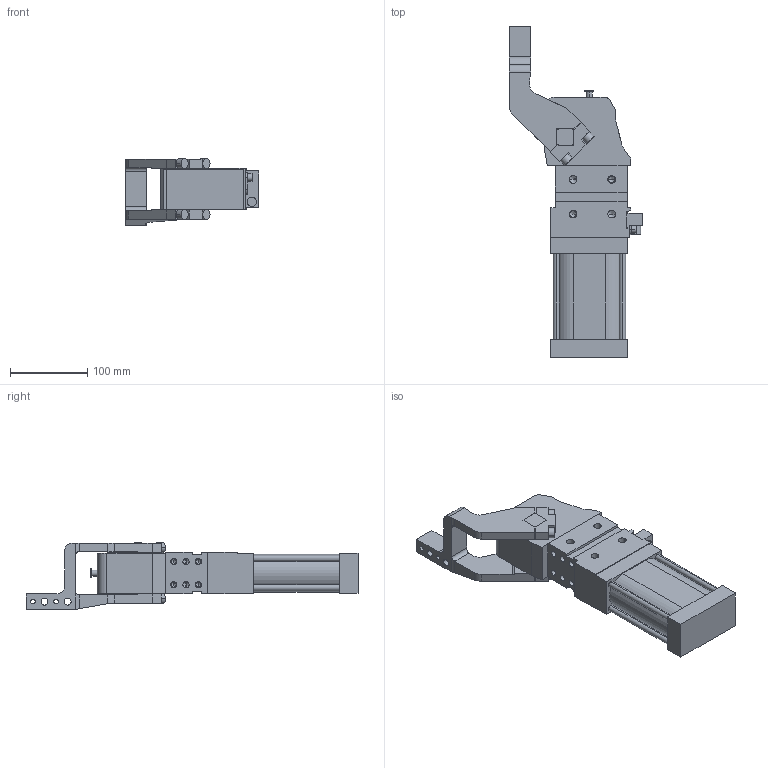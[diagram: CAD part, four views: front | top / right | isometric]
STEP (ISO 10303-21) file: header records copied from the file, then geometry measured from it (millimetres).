
FILE_DESCRIPTION (( 'STEP AP214' ), '1' );
FILE_NAME ('cpl63h3di1g_107.STEP', '2023-01-26T10:46:52', ( '' ), ( '' ), 'SwSTEP 2.0', 'SolidWorks 2022', '' );
FILE_SCHEMA (( 'AUTOMOTIVE_DESIGN' ));
Length unit declared in the file: millimetre
Products named in the file (4): meccanica_cpl_63; cpl63h3di1g_107; leva_sx_offset_45_cpl63; blocchetto_VEP_0
Assembly tree (3 placements, depth 2):
  cpl63h3di1g_107
    meccanica_cpl_63
    blocchetto_VEP_0
    leva_sx_offset_45_cpl63
Bounding box: 173.5 x 430.5 x 86.5 mm (x, y, z)
Volume: 1808979.7 mm3; surface area: 193736.5 mm2
Topology: 3 solids, 3 shells, 398 faces, 1043 edges, 643 vertices
Faces by surface type: plane 200, cylinder 148, cone 50
Entity records: 13503 total; most frequent: CARTESIAN_POINT 2144, DIRECTION 2114, ORIENTED_EDGE 1994, EDGE_CURVE 997, AXIS2_PLACEMENT_3D 727, VECTOR 660, LINE 660, VERTEX_POINT 643
